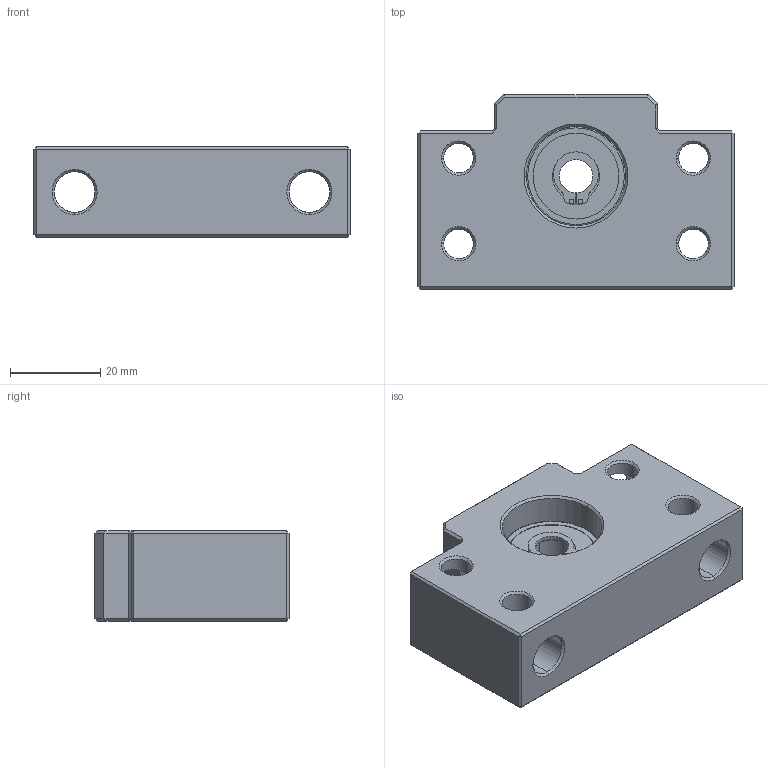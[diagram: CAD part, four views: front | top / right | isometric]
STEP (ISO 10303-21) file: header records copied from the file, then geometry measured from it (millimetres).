
FILE_DESCRIPTION (( 'STEP AP203' ), '1' );
FILE_NAME ('AF10.STEP', '2009-05-22T08:55:23', ( '冠犁泅' ), ( '俺惯何' ), 'SwSTEP 2.0', 'SolidWorks 2007', '' );
FILE_SCHEMA (( 'CONFIG_CONTROL_DESIGN' ));
Length unit declared in the file: millimetre
Products named in the file (4): 608zz_ル遽; AF10; SAF10_BODY_晦獄 撲薑; Heavy Duty External Retaining Ring_am_B27.8M - 3DM1-8
Assembly tree (3 placements, depth 2):
  AF10
    SAF10_BODY_晦獄 撲薑
    Heavy Duty External Retaining Ring_am_B27.8M - 3DM1-8
    608zz_ル遽
Bounding box: 70 x 43 x 20 mm (x, y, z)
Volume: 39322 mm3; surface area: 15727.5 mm2
Topology: 2 solids, 12 shells, 196 faces, 502 edges, 292 vertices
Faces by surface type: cylinder 70, plane 68, bspline 30, cone 28
Entity records: 7941 total; most frequent: CARTESIAN_POINT 3036, DIRECTION 954, ORIENTED_EDGE 912, EDGE_CURVE 466, AXIS2_PLACEMENT_3D 365, VERTEX_POINT 290, EDGE_LOOP 226, LINE 224
